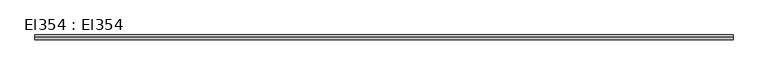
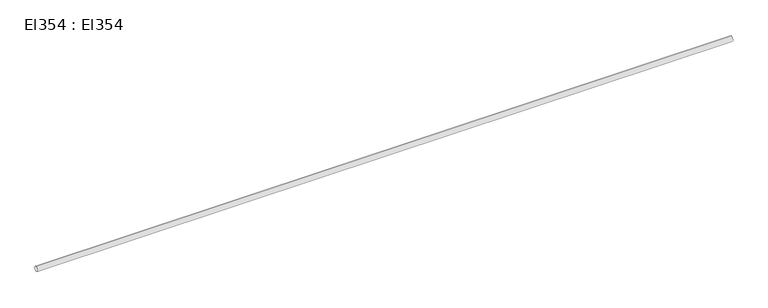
"""IFC4 building model written with IfcOpenShell, lengths in millimetres: cable carrier segment geometry, El354 : El354."""

from ifc_helpers import new_model, si_unit, point, frame, frame_2d, origin, place, context, project, spatial, circle_curve, trimmed, segment, composite_curve, outline, extrude, source, transform, mapped, element, save


def el354_el354_0e8dacf4(model_context):
    return source(origin(), model_context, "Body", "SweptSolid", [
        extrude(outline(composite_curve([segment(trimmed(circle_curve(frame_2d((16157.11761, 2950.0)), 9.5), [point((16157.11761, 2940.5))], [point((16157.11761, 2959.5))], False, "CARTESIAN"), True, "CONTINUOUS"), segment(trimmed(circle_curve(frame_2d((16157.11761, 2950.0)), 9.5), [point((16157.11761, 2959.5))], [point((16157.11761, 2940.5))], False, "CARTESIAN"), True, "CONTINUOUS")], self_intersect=False)), frame((2626.1, 0.0, 0.0), z_axis=(1.0, 0.0, 0.0), x_axis=(0.0, 1.0, 0.0)), (0.0, 0.0, 1.0), 2600.0),
    ])


if __name__ == "__main__":
    model = new_model("IFC4")
    model_context = context("Model", 3, world=origin())
    ifc_project = project(units=[si_unit("LENGTHUNIT", "METRE", prefix="MILLI")], contexts=[model_context])
    site = spatial("IfcSite", under=ifc_project)
    building = spatial("IfcBuilding", under=site)
    placement = place(None, origin())
    el354_el354_shape = el354_el354_0e8dacf4(model_context)
    element("IfcCableCarrierSegment", 1, ObjectType="El354 : El354", at=placement, inside=building, context=model_context, shape_type="MappedRepresentation", body=[
        mapped(el354_el354_shape, transform((0.0, 0.0, 0.0), x_axis=(1.0, 0.0, 0.0), y_axis=(0.0, 1.0, 0.0), z_axis=(0.0, 0.0, 1.0))),
    ])
    save(model, "model.ifc")
